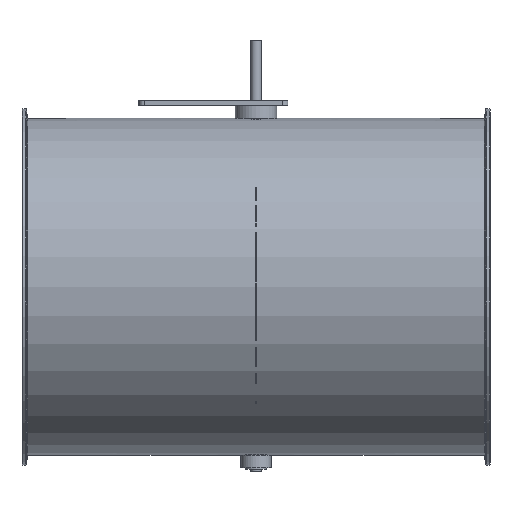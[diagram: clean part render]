
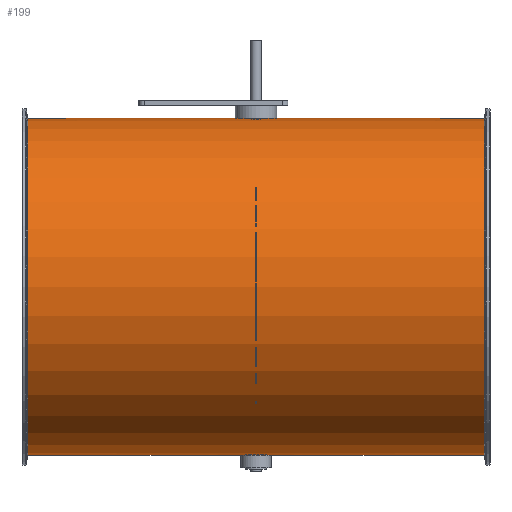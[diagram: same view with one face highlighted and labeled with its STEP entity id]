
A CAD part, top view. The second image highlights one B-rep face of the part: STEP entity #199.
In plain terms, the highlighted cylindrical face has radius 158.3 mm (diameter 316.6 mm), a full revolution.
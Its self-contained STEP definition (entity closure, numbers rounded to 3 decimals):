
#103=B_SPLINE_CURVE_WITH_KNOTS('',3,(#1411,#1412,#1413,#1414,#1415,#1416,
#1417,#1418,#1419,#1420,#1421,#1422,#1423,#1424,#1425,#1426,#1427,#1428),
 .UNSPECIFIED.,.T.,.F.,(2,2,2,2,2,2,2,2,2,2,2),(-0.125,0.,0.125,
0.25,0.375,0.5,0.625,0.75,0.875,1.,
1.125),.UNSPECIFIED.);
#104=B_SPLINE_CURVE_WITH_KNOTS('',3,(#1430,#1431,#1432,#1433,#1434,#1435,
#1436,#1437,#1438,#1439,#1440,#1441,#1442,#1443,#1444,#1445,#1446,#1447),
 .UNSPECIFIED.,.T.,.F.,(2,2,2,2,2,2,2,2,2,2,2),(-0.125,0.,0.125,
0.25,0.375,0.5,0.625,0.75,0.875,1.,
1.125),.UNSPECIFIED.);
#139=CYLINDRICAL_SURFACE('',#974,158.3);
#199=ADVANCED_FACE('',(#345,#346,#347,#348),#139,.T.);
#345=FACE_BOUND('',#457,.T.);
#346=FACE_BOUND('',#458,.T.);
#347=FACE_BOUND('',#459,.T.);
#348=FACE_BOUND('',#460,.T.);
#457=EDGE_LOOP('',(#611));
#458=EDGE_LOOP('',(#612));
#459=EDGE_LOOP('',(#613));
#460=EDGE_LOOP('',(#614));
#611=ORIENTED_EDGE('',*,*,#809,.T.);
#612=ORIENTED_EDGE('',*,*,#810,.F.);
#613=ORIENTED_EDGE('',*,*,#811,.F.);
#614=ORIENTED_EDGE('',*,*,#812,.T.);
#727=VERTEX_POINT('',#1410);
#728=VERTEX_POINT('',#1429);
#729=VERTEX_POINT('',#1448);
#730=VERTEX_POINT('',#1450);
#809=EDGE_CURVE('',#727,#727,#879,.T.);
#810=EDGE_CURVE('',#728,#728,#103,.T.);
#811=EDGE_CURVE('',#729,#729,#104,.T.);
#812=EDGE_CURVE('',#730,#730,#880,.T.);
#879=CIRCLE('',#972,158.3);
#880=CIRCLE('',#973,158.3);
#972=AXIS2_PLACEMENT_3D('',#1409,#1174,#1175);
#973=AXIS2_PLACEMENT_3D('',#1449,#1176,#1177);
#974=AXIS2_PLACEMENT_3D('',#1451,#1178,#1179);
#1174=DIRECTION('',(-1.,0.,0.));
#1175=DIRECTION('',(0.,0.,-1.));
#1176=DIRECTION('',(1.,0.,0.));
#1177=DIRECTION('',(0.,0.,1.));
#1178=DIRECTION('',(1.,0.,0.));
#1179=DIRECTION('',(0.,0.,-1.));
#1409=CARTESIAN_POINT('',(214.804,-51.,125.));
#1410=CARTESIAN_POINT('',(214.804,-51.,-33.3));
#1411=CARTESIAN_POINT('',(2.643,106.984,115.));
#1412=CARTESIAN_POINT('',(-2.643,106.984,115.));
#1413=CARTESIAN_POINT('',(-5.227,107.06,116.085));
#1414=CARTESIAN_POINT('',(-8.916,107.225,119.774));
#1415=CARTESIAN_POINT('',(-9.999,107.3,122.385));
#1416=CARTESIAN_POINT('',(-10.001,107.3,127.604));
#1417=CARTESIAN_POINT('',(-8.941,107.226,130.2));
#1418=CARTESIAN_POINT('',(-5.208,107.059,133.936));
#1419=CARTESIAN_POINT('',(-2.614,106.984,134.999));
#1420=CARTESIAN_POINT('',(2.607,106.984,135.001));
#1421=CARTESIAN_POINT('',(5.219,107.059,133.92));
#1422=CARTESIAN_POINT('',(8.91,107.224,130.236));
#1423=CARTESIAN_POINT('',(9.997,107.3,127.649));
#1424=CARTESIAN_POINT('',(10.003,107.3,122.37));
#1425=CARTESIAN_POINT('',(8.921,107.225,119.782));
#1426=CARTESIAN_POINT('',(5.233,107.06,116.088));
#1427=CARTESIAN_POINT('',(2.643,106.984,115.));
#1428=CARTESIAN_POINT('',(-2.643,106.984,115.));
#1429=CARTESIAN_POINT('',(0.,106.984,115.));
#1430=CARTESIAN_POINT('',(-2.643,-208.984,115.));
#1431=CARTESIAN_POINT('',(2.643,-208.984,115.));
#1432=CARTESIAN_POINT('',(5.227,-209.06,116.085));
#1433=CARTESIAN_POINT('',(8.916,-209.225,119.774));
#1434=CARTESIAN_POINT('',(9.999,-209.3,122.385));
#1435=CARTESIAN_POINT('',(10.001,-209.3,127.604));
#1436=CARTESIAN_POINT('',(8.941,-209.226,130.2));
#1437=CARTESIAN_POINT('',(5.208,-209.059,133.936));
#1438=CARTESIAN_POINT('',(2.614,-208.984,134.999));
#1439=CARTESIAN_POINT('',(-2.607,-208.984,135.001));
#1440=CARTESIAN_POINT('',(-5.219,-209.059,133.92));
#1441=CARTESIAN_POINT('',(-8.91,-209.224,130.236));
#1442=CARTESIAN_POINT('',(-9.997,-209.3,127.649));
#1443=CARTESIAN_POINT('',(-10.003,-209.3,122.37));
#1444=CARTESIAN_POINT('',(-8.921,-209.225,119.782));
#1445=CARTESIAN_POINT('',(-5.233,-209.06,116.088));
#1446=CARTESIAN_POINT('',(-2.643,-208.984,115.));
#1447=CARTESIAN_POINT('',(2.643,-208.984,115.));
#1448=CARTESIAN_POINT('',(0.,-208.984,115.));
#1449=CARTESIAN_POINT('',(-214.804,-51.,125.));
#1450=CARTESIAN_POINT('',(-214.804,-51.,283.3));
#1451=CARTESIAN_POINT('',(-220.,-51.,125.));
